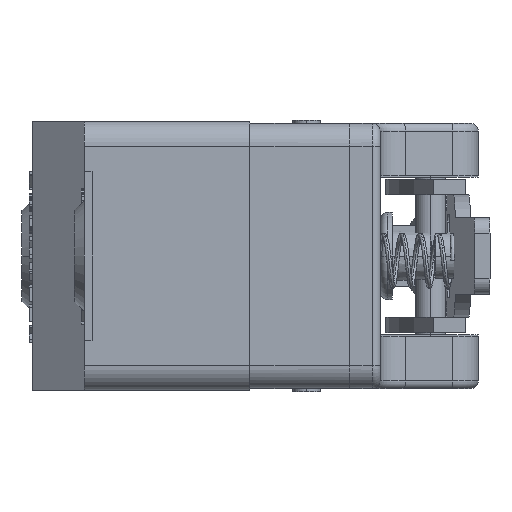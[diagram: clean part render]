
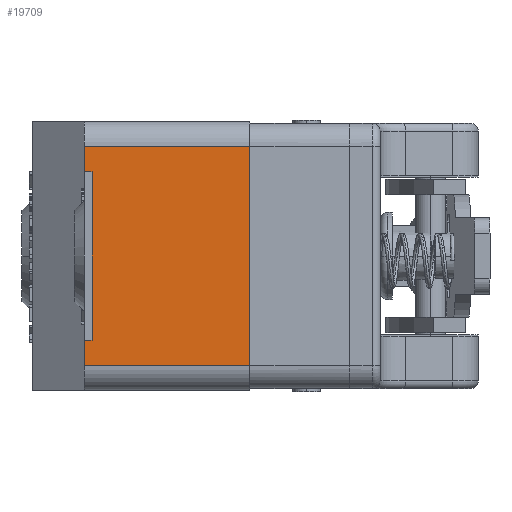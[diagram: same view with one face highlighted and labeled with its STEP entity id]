
A CAD part, left-side view. The second image highlights one B-rep face of the part: STEP entity #19709.
In plain terms, the highlighted planar face has unit normal (-1, 0, 0).
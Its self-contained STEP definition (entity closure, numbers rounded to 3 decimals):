
#1824=DIRECTION('',(0.,1.,0.));
#1825=VECTOR('',#1824,10.8);
#1826=CARTESIAN_POINT('',(0.,6.5,-1.65));
#1827=LINE('',#1826,#1825);
#1828=DIRECTION('',(0.,0.,1.));
#1829=VECTOR('',#1828,1.65);
#1830=CARTESIAN_POINT('',(0.,17.3,-3.3));
#1831=LINE('',#1830,#1829);
#1832=DIRECTION('',(0.,0.,-1.));
#1833=VECTOR('',#1832,14.3);
#1834=CARTESIAN_POINT('',(0.,6.5,-1.65));
#1835=LINE('',#1834,#1833);
#1836=DIRECTION('',(0.,1.,0.));
#1837=VECTOR('',#1836,10.8);
#1838=CARTESIAN_POINT('',(0.,6.5,-15.95));
#1839=LINE('',#1838,#1837);
#1840=DIRECTION('',(0.,0.,1.));
#1841=VECTOR('',#1840,1.65);
#1842=CARTESIAN_POINT('',(0.,17.3,-15.95));
#1843=LINE('',#1842,#1841);
#1844=DIRECTION('',(0.,0.,-1.));
#1845=VECTOR('',#1844,11.);
#1846=CARTESIAN_POINT('',(0.,16.8,-3.3));
#1847=LINE('',#1846,#1845);
#1856=DIRECTION('',(0.,1.,0.));
#1857=VECTOR('',#1856,0.5);
#1858=CARTESIAN_POINT('',(0.,16.8,-14.3));
#1859=LINE('',#1858,#1857);
#1876=DIRECTION('',(0.,-1.,0.));
#1877=VECTOR('',#1876,0.5);
#1878=CARTESIAN_POINT('',(0.,17.3,-3.3));
#1879=LINE('',#1878,#1877);
#13920=CARTESIAN_POINT('',(0.,17.3,-1.65));
#13922=VERTEX_POINT('',#13920);
#13923=CARTESIAN_POINT('',(0.,17.3,-15.95));
#13925=VERTEX_POINT('',#13923);
#14163=CARTESIAN_POINT('',(0.,6.5,-15.95));
#14164=VERTEX_POINT('',#14163);
#14165=CARTESIAN_POINT('',(0.,6.5,-1.65));
#14167=VERTEX_POINT('',#14165);
#14191=CARTESIAN_POINT('',(0.,17.3,-3.3));
#14192=VERTEX_POINT('',#14191);
#14193=CARTESIAN_POINT('',(0.,17.3,-14.3));
#14194=VERTEX_POINT('',#14193);
#14195=CARTESIAN_POINT('',(0.,16.8,-3.3));
#14196=CARTESIAN_POINT('',(0.,16.8,-14.3));
#14197=VERTEX_POINT('',#14195);
#14198=VERTEX_POINT('',#14196);
#19691=CARTESIAN_POINT('',(0.,11.9,-8.8));
#19692=DIRECTION('',(1.,0.,0.));
#19693=DIRECTION('',(0.,0.,-1.));
#19694=AXIS2_PLACEMENT_3D('',#19691,#19692,#19693);
#19695=PLANE('',#19694);
#19697=ORIENTED_EDGE('',*,*,#19696,.F.);
#19699=ORIENTED_EDGE('',*,*,#19698,.F.);
#19700=ORIENTED_EDGE('',*,*,#18417,.T.);
#19701=ORIENTED_EDGE('',*,*,#19684,.F.);
#19702=ORIENTED_EDGE('',*,*,#18329,.T.);
#19703=ORIENTED_EDGE('',*,*,#18367,.T.);
#19704=ORIENTED_EDGE('',*,*,#18425,.T.);
#19706=ORIENTED_EDGE('',*,*,#19705,.F.);
#19707=EDGE_LOOP('',(#19697,#19699,#19700,#19701,#19702,#19703,#19704,#19706));
#19708=FACE_OUTER_BOUND('',#19707,.F.);
#19709=ADVANCED_FACE('',(#19708),#19695,.F.);
#18329=EDGE_CURVE('',#14167,#14164,#1835,.T.);
#18367=EDGE_CURVE('',#14164,#13925,#1839,.T.);
#18417=EDGE_CURVE('',#14192,#13922,#1831,.T.);
#18425=EDGE_CURVE('',#13925,#14194,#1843,.T.);
#19684=EDGE_CURVE('',#14167,#13922,#1827,.T.);
#19696=EDGE_CURVE('',#14197,#14198,#1847,.T.);
#19698=EDGE_CURVE('',#14192,#14197,#1879,.T.);
#19705=EDGE_CURVE('',#14198,#14194,#1859,.T.);
